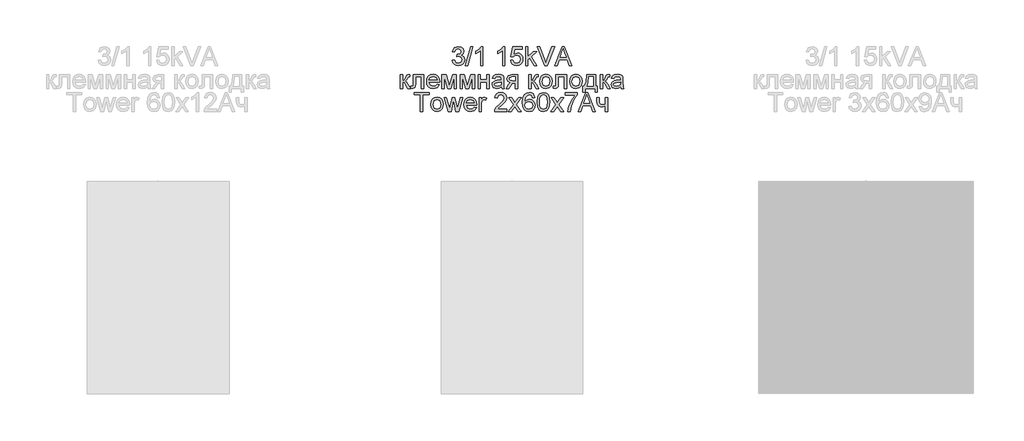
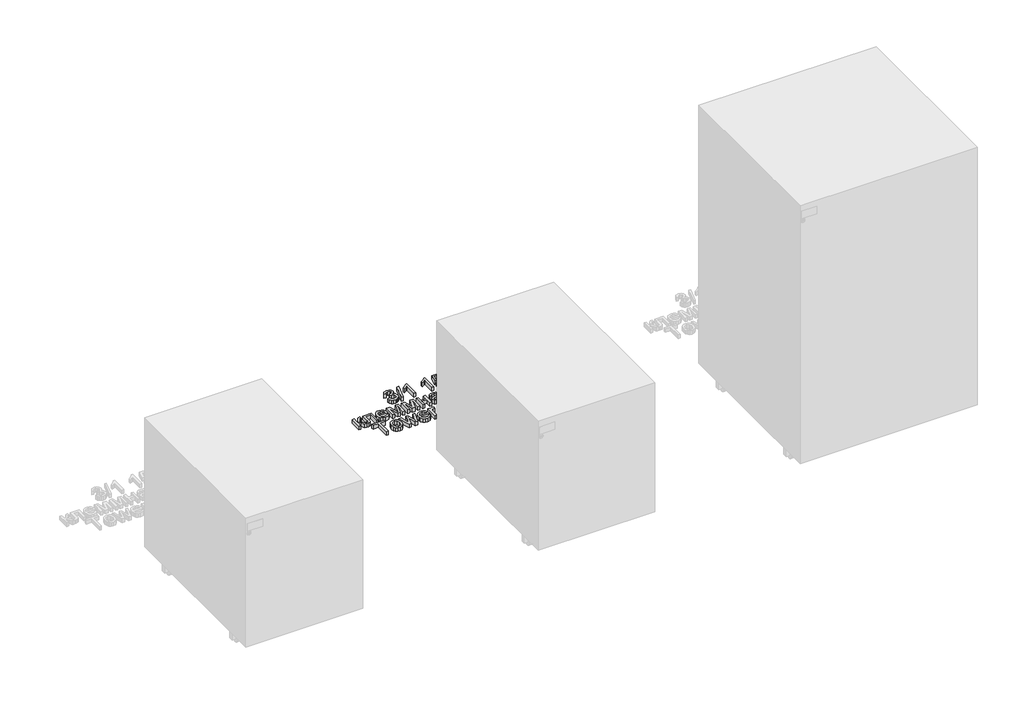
# One storey, part 45 of 74: 1 proxy.
"""IFC4 building model written with IfcOpenShell, lengths in millimetres."""

from ifc_helpers import new_model, si_unit, origin, origin_with_axes, place, context, project, spatial, polyline, outline, extrude, element, save

model = new_model("IFC4")

# Units and contexts
model_context = context("Model", 3, world=origin())
ifc_project = project(units=[si_unit("LENGTHUNIT", "METRE", prefix="MILLI")], contexts=[model_context])

# Site, building, storey
site = spatial("IfcSite", under=ifc_project)
building = spatial("IfcBuilding", under=site)
storey = spatial("IfcBuildingStorey", under=building, Name="Этаж 01", Elevation=0.0)

# Proxy
placement = place(None, origin())
element("IfcBuildingElementProxy", 1, Name="80 мм Arial", ObjectType="80 мм Arial", at=placement, inside=storey, context=model_context, shape_type="SweptSolid", body=[
    extrude(outline(polyline([(10098.3137414, -15105.2863601), (10108.3593724, -15104.0306562), (10113.9021278, -15114.6060373), (10124.2714949, -15117.8433988), (10136.475367, -15113.3895741), (10141.0076732, -15102.3629245), (10136.5146077, -15091.9739369), (10125.0955506, -15087.8634688), (10118.0518367, -15088.9622097), (10119.1701979, -15078.9165786), (10120.7790685, -15079.0343009), (10132.1785053, -15076.150106), (10137.2405615, -15067.2816974), (10133.5715518, -15059.423738), (10124.114532, -15056.3139089), (10114.5397899, -15059.4531685), (10109.6150762, -15068.8709476), (10099.5694452, -15067.6152437), (10107.7903816, -15051.8600842), (10123.7613652, -15046.2682778), (10135.8769456, -15049.0249403), (10144.3529468, -15056.5591635), (10147.2861926, -15066.6930862), (10144.5000996, -15075.9539023), (10136.2595429, -15082.6052088), (10147.2077111, -15089.4723394), (10151.0533042, -15102.5395078), (10149.1305076, -15112.330074), (10143.3621179, -15120.5117696), (10134.6555774, -15126.0447148), (10123.9183282, -15127.8890298), (10114.2062435, -15126.3144949), (10106.2992332, -15121.5908901), (10100.8006236, -15114.3656877), (10098.3137414, -15105.2863601)])), origin_with_axes(), (0.0, 0.0, 1.0), 20.0),
    extrude(outline(polyline([(10154.8204158, -15126.633326), (10177.4230856, -15046.2682778), (10186.487698, -15046.2682778), (10163.8850282, -15126.633326), (10154.8204158, -15126.633326)])), origin_with_axes(), (0.0, 0.0, 1.0), 20.0),
    extrude(outline(polyline([(10228.9069446, -15126.633326), (10218.8613135, -15126.633326), (10218.8613135, -15064.0050951), (10209.3454326, -15070.783934), (10198.7700515, -15075.8558004), (10198.7700515, -15066.3595399), (10213.4951415, -15056.9613812), (10222.4322214, -15046.2682778), (10228.9069446, -15046.2682778), (10228.9069446, -15126.633326)])), origin_with_axes(), (0.0, 0.0, 1.0), 20.0),
    extrude(outline(polyline([(10321.8290314, -15126.633326), (10311.7834004, -15126.633326), (10311.7834004, -15064.0050951), (10302.2675195, -15070.783934), (10291.6921384, -15075.8558004), (10291.6921384, -15066.3595399), (10306.4172284, -15056.9613812), (10315.3543083, -15046.2682778), (10321.8290314, -15046.2682778), (10321.8290314, -15126.633326)])), origin_with_axes(), (0.0, 0.0, 1.0), 20.0),
    extrude(outline(polyline([(10345.6874051, -15105.2863601), (10355.7330361, -15104.0306562), (10360.7950924, -15114.380403), (10371.291992, -15117.8433988), (10383.8882715, -15113.0265972), (10388.3813369, -15100.2439242), (10384.1727669, -15088.3147373), (10371.4489549, -15083.9393941), (10362.6295973, -15085.6856074), (10356.98874, -15090.2179135), (10346.943109, -15088.9622097), (10355.7330361, -15047.5239817), (10394.6598563, -15047.5239817), (10394.6598563, -15057.5696127), (10363.8558706, -15057.5696127), (10359.5590089, -15079.7013936), (10374.2546683, -15073.8937631), (10383.6405643, -15075.6939324), (10391.4323049, -15081.0944401), (10396.6783022, -15089.3251866), (10398.4269679, -15099.6160722), (10396.852433, -15109.6617032), (10392.1288282, -15118.2554267), (10383.0838362, -15125.480629), (10371.2527512, -15127.8890298), (10361.3861561, -15126.3414729), (10353.5257441, -15121.6988021), (10348.1374992, -15114.5005778), (10345.6874051, -15105.2863601)])), origin_with_axes(), (0.0, 0.0, 1.0), 20.0),
    extrude(outline(polyline([(10409.7283028, -15126.633326), (10409.7283028, -15046.2682778), (10419.7739338, -15046.2682778), (10419.7739338, -15089.452719), (10442.2981221, -15067.6152437), (10456.1893463, -15067.6152437), (10433.3904728, -15089.7274042), (10457.4450501, -15126.633326), (10445.712067, -15126.633326), (10426.1897958, -15096.712257), (10419.7739338, -15102.9319153), (10419.7739338, -15126.633326), (10409.7283028, -15126.633326)])), origin_with_axes(), (0.0, 0.0, 1.0), 20.0),
    extrude(outline(polyline([(10491.2313326, -15126.633326), (10459.2501245, -15046.2682778), (10470.0020889, -15046.2682778), (10491.4079159, -15104.1679988), (10495.7440184, -15117.2155469), (10500.0212597, -15104.1679988), (10521.4859479, -15046.2682778), (10532.2379123, -15046.2682778), (10501.6105099, -15126.633326), (10491.2313326, -15126.633326)])), origin_with_axes(), (0.0, 0.0, 1.0), 20.0),
    extrude(outline(polyline([(10532.2182919, -15126.633326), (10564.2976019, -15046.2682778), (10572.8520846, -15046.2682778), (10604.9313946, -15126.633326), (10594.3167727, -15126.633326), (10585.1148177, -15101.5192484), (10552.0152484, -15101.5192484), (10542.8329138, -15126.633326), (10532.2182919, -15126.633326)]), holes=[polyline([(10555.7038785, -15091.4736174), (10581.445808, -15091.4736174), (10574.2058903, -15071.7159017), (10568.5748432, -15056.3139089), (10563.5716481, -15069.9893089), (10555.7038785, -15091.4736174)])]), origin_with_axes(), (0.0, 0.0, 1.0), 20.0),
    extrude(outline(polyline([(9933.1886815, -15165.195098), (9978.3940211, -15165.195098), (9978.3940211, -15224.1543191), (9968.3483901, -15224.1543191), (9968.3483901, -15175.240729), (9943.2343126, -15175.240729), (9943.2343126, -15203.3959644), (9942.5574097, -15216.3846514), (9938.839349, -15221.8685457), (9930.0494219, -15224.2131802), (9921.8873467, -15223.7030505), (9921.8873467, -15214.1675492), (9926.3804121, -15214.1675492), (9930.9225285, -15213.5495075), (9932.737413, -15211.5874702), (9933.1886815, -15202.8269736), (9933.1886815, -15165.195098)])), origin_with_axes(), (0.0, 0.0, 1.0), 20.0),
    extrude(outline(polyline([(9879.1934148, -15165.195098), (9889.2390459, -15165.195098), (9889.2390459, -15190.3091756), (9895.9688338, -15188.5041012), (9901.4821587, -15177.9875813), (9906.0635158, -15168.9131587), (9910.1053126, -15165.9602926), (9917.4531423, -15165.195098), (9919.3759389, -15165.195098), (9919.3759389, -15175.2995902), (9916.6683274, -15175.240729), (9911.7632341, -15176.3002292), (9908.3100485, -15182.9122949), (9904.2584414, -15190.0639209), (9898.5783434, -15193.5661575), (9904.9157239, -15197.4755168), (9911.1353822, -15205.7111684), (9921.8873467, -15224.2131802), (9910.4682895, -15224.2131802), (9899.9321492, -15206.1035759), (9894.6346485, -15198.4418202), (9889.2390459, -15196.5876949), (9889.2390459, -15224.2131802), (9879.1934148, -15224.2131802), (9879.1934148, -15165.195098)])), origin_with_axes(), (0.0, 0.0, 1.0), 20.0),
    extrude(outline(polyline([(10034.7829733, -15206.633326), (10044.6324006, -15207.8890298), (10035.4206355, -15220.8580964), (10018.2626192, -15225.4688841), (10006.4756801, -15223.4798688), (9997.4061626, -15217.5128228), (9991.6230577, -15207.9552486), (9989.695356, -15195.1946485), (9991.642678, -15182.0048527), (9997.4846441, -15172.1407101), (10006.4315342, -15165.9897231), (10017.6936284, -15163.9393941), (10028.6050084, -15165.984818), (10037.3238116, -15172.1210897), (10043.0406979, -15181.9656119), (10044.9463266, -15195.1357873), (10044.8874655, -15197.8433988), (9999.740987, -15197.8433988), (10005.5191869, -15210.8909469), (10018.4588229, -15215.4232531), (10028.3082502, -15213.3238732), (10034.7829733, -15206.633326)]), holes=[polyline([(9999.740987, -15187.7977678), (10034.9006956, -15187.7977678), (10030.8785191, -15178.6939147), (10017.6543876, -15173.9850252), (10005.2837424, -15177.7423266), (9999.740987, -15187.7977678)])]), origin_with_axes(), (0.0, 0.0, 1.0), 20.0),
    extrude(outline(polyline([(10054.9919576, -15165.195098), (10072.2775063, -15165.195098), (10085.5997396, -15212.4409564), (10099.9618527, -15165.195098), (10116.5214476, -15165.195098), (10116.5214476, -15224.2131802), (10106.4758166, -15224.2131802), (10106.4758166, -15176.6926366), (10092.035222, -15224.2131802), (10078.8503313, -15224.2131802), (10065.0375886, -15174.4166734), (10065.0375886, -15224.2131802), (10054.9919576, -15224.2131802), (10054.9919576, -15165.195098)])), origin_with_axes(), (0.0, 0.0, 1.0), 20.0),
    extrude(outline(polyline([(10131.5898941, -15165.195098), (10148.8754428, -15165.195098), (10162.1976761, -15212.4409564), (10176.5597892, -15165.195098), (10193.1193841, -15165.195098), (10193.1193841, -15224.2131802), (10183.073753, -15224.2131802), (10183.073753, -15176.6926366), (10168.6331585, -15224.2131802), (10155.4482678, -15224.2131802), (10141.6355251, -15174.4166734), (10141.6355251, -15224.2131802), (10131.5898941, -15224.2131802), (10131.5898941, -15165.195098)])), origin_with_axes(), (0.0, 0.0, 1.0), 20.0),
    extrude(outline(polyline([(10208.1878306, -15165.195098), (10218.2334616, -15165.195098), (10218.2334616, -15187.7977678), (10244.603243, -15187.7977678), (10244.603243, -15165.195098), (10254.648874, -15165.195098), (10254.648874, -15224.2131802), (10244.603243, -15224.2131802), (10244.603243, -15197.8433988), (10218.2334616, -15197.8433988), (10218.2334616, -15224.2131802), (10208.1878306, -15224.2131802), (10208.1878306, -15165.195098)])), origin_with_axes(), (0.0, 0.0, 1.0), 20.0),
    extrude(outline(polyline([(10307.3884369, -15216.678957), (10297.6469216, -15223.4872264), (10286.885147, -15225.4688841), (10272.2973996, -15220.7011335), (10267.2059128, -15208.5168818), (10269.1287094, -15200.5706307), (10274.1809554, -15194.802241), (10281.2148592, -15191.5060183), (10289.9066844, -15189.9952496), (10307.3295757, -15186.5420639), (10307.3884369, -15184.3053414), (10304.6219643, -15176.8888404), (10293.5168331, -15173.9850252), (10283.3534798, -15175.9176319), (10278.5072477, -15182.7749523), (10268.4616167, -15181.5192484), (10272.8075293, -15171.7090619), (10281.5582157, -15165.9602926), (10294.8117777, -15163.9393941), (10306.9862192, -15165.7248481), (10313.86316, -15170.2081033), (10316.9435585, -15177.026183), (10317.4340679, -15185.8161101), (10317.4340679, -15198.3142878), (10317.9441976, -15215.7666096), (10319.9454756, -15224.2131802), (10309.8998446, -15224.2131802), (10307.3884369, -15216.678957)]), holes=[polyline([(10307.3884369, -15196.5876949), (10291.1820087, -15199.6680935), (10282.5392344, -15201.2965845), (10278.6249699, -15203.9453348), (10277.2515438, -15207.8105483), (10280.2436507, -15213.2453917), (10289.0237677, -15215.4232531), (10299.1871209, -15213.0197574), (10305.7403255, -15207.2023168), (10307.3295757, -15199.432649), (10307.3884369, -15196.5876949)])]), origin_with_axes(), (0.0, 0.0, 1.0), 20.0),
    extrude(outline(polyline([(10376.4521501, -15165.195098), (10376.4521501, -15224.2131802), (10366.4065191, -15224.2131802), (10366.4065191, -15201.6105105), (10360.932435, -15201.6105105), (10353.4766932, -15202.8858347), (10346.47222, -15211.4599377), (10338.4671078, -15224.2131802), (10326.8518469, -15224.2131802), (10336.9367187, -15208.0852336), (10345.4912014, -15199.7269546), (10333.797459, -15193.6250186), (10329.9911066, -15182.2452022), (10335.1905055, -15169.9236079), (10350.2393317, -15165.195098), (10376.4521501, -15165.195098)]), holes=[polyline([(10366.4065191, -15175.240729), (10353.1627672, -15175.240729), (10342.4402334, -15177.5657432), (10340.0367377, -15183.0103968), (10343.578215, -15189.4949301), (10356.1254436, -15191.5648794), (10366.4065191, -15191.5648794), (10366.4065191, -15175.240729)])]), origin_with_axes(), (0.0, 0.0, 1.0), 20.0),
    extrude(outline(polyline([(10422.9131935, -15165.195098), (10432.9588245, -15165.195098), (10432.9588245, -15190.3091756), (10439.6886125, -15188.5041012), (10445.2019373, -15177.9875813), (10449.7832945, -15168.9131587), (10453.8250913, -15165.9602926), (10461.172921, -15165.195098), (10463.0957176, -15165.195098), (10463.0957176, -15175.2995902), (10460.3881061, -15175.240729), (10455.4830128, -15176.3002292), (10452.0298272, -15182.9122949), (10447.9782201, -15190.0639209), (10442.2981221, -15193.5661575), (10448.6355026, -15197.4755168), (10454.8551609, -15205.7111684), (10465.6071253, -15224.2131802), (10454.1880682, -15224.2131802), (10443.6519279, -15206.1035759), (10438.3544271, -15198.4418202), (10432.9588245, -15196.5876949), (10432.9588245, -15224.2131802), (10422.9131935, -15224.2131802), (10422.9131935, -15165.195098)])), origin_with_axes(), (0.0, 0.0, 1.0), 20.0),
    extrude(outline(polyline([(10469.374237, -15194.7041391), (10471.5471933, -15180.4744636), (10478.0660622, -15170.4729784), (10486.1202254, -15165.5727902), (10495.7636388, -15163.9393941), (10506.3169469, -15165.9284095), (10514.7463497, -15171.8954554), (10520.2719373, -15181.3696431), (10522.1137998, -15193.8800835), (10518.8568179, -15211.7542433), (10509.3703675, -15221.8685457), (10495.7636388, -15225.4688841), (10485.0827982, -15223.4872264), (10476.6632056, -15217.5422534), (10471.1964791, -15207.8694095), (10469.374237, -15194.7041391)]), holes=[polyline([(10479.419868, -15194.6845188), (10484.0698964, -15210.2532848), (10495.7636388, -15215.4232531), (10507.4181404, -15210.2238542), (10512.0681688, -15194.3705928), (10507.3887098, -15179.1549935), (10495.7636388, -15173.9850252), (10484.0698964, -15179.1353731), (10479.419868, -15194.6845188)])]), origin_with_axes(), (0.0, 0.0, 1.0), 20.0),
    extrude(outline(polyline([(10538.4379502, -15165.195098), (10583.6432898, -15165.195098), (10583.6432898, -15224.1543191), (10573.5976588, -15224.1543191), (10573.5976588, -15175.240729), (10548.4835812, -15175.240729), (10548.4835812, -15203.3959644), (10547.8066783, -15216.3846514), (10544.0886176, -15221.8685457), (10535.2986905, -15224.2131802), (10527.1366153, -15223.7030505), (10527.1366153, -15214.1675492), (10531.6296807, -15214.1675492), (10536.1717971, -15213.5495075), (10537.9866816, -15211.5874702), (10538.4379502, -15202.8269736), (10538.4379502, -15165.195098)])), origin_with_axes(), (0.0, 0.0, 1.0), 20.0),
    extrude(outline(polyline([(10596.2003285, -15194.7041391), (10598.3732849, -15180.4744636), (10604.8921538, -15170.4729784), (10612.946317, -15165.5727902), (10622.5897303, -15163.9393941), (10633.1430385, -15165.9284095), (10641.5724413, -15171.8954554), (10647.0980288, -15181.3696431), (10648.9398914, -15193.8800835), (10645.6829094, -15211.7542433), (10636.1964591, -15221.8685457), (10622.5897303, -15225.4688841), (10611.9088897, -15223.4872264), (10603.4892971, -15217.5422534), (10598.0225707, -15207.8694095), (10596.2003285, -15194.7041391)]), holes=[polyline([(10606.2459596, -15194.6845188), (10610.895988, -15210.2532848), (10622.5897303, -15215.4232531), (10634.2442319, -15210.2238542), (10638.8942603, -15194.3705928), (10634.2148014, -15179.1549935), (10622.5897303, -15173.9850252), (10610.895988, -15179.1353731), (10606.2459596, -15194.6845188)])]), origin_with_axes(), (0.0, 0.0, 1.0), 20.0),
    extrude(outline(polyline([(10669.0311534, -15165.195098), (10706.7022697, -15165.195098), (10706.7022697, -15214.1675492), (10714.236493, -15214.1675492), (10714.236493, -15240.5373306), (10704.1908619, -15240.5373306), (10704.1908619, -15224.2131802), (10662.752634, -15224.2131802), (10662.752634, -15240.5373306), (10652.707003, -15240.5373306), (10652.707003, -15214.1675492), (10658.9855224, -15214.1675492), (10666.7453799, -15195.0082549), (10669.0311534, -15165.195098)]), holes=[polyline([(10677.8210805, -15175.240729), (10675.4666358, -15198.1278942), (10670.2868573, -15214.1675492), (10696.6566387, -15214.1675492), (10696.6566387, -15175.240729), (10677.8210805, -15175.240729)])]), origin_with_axes(), (0.0, 0.0, 1.0), 20.0),
    extrude(outline(polyline([(10725.5378279, -15165.195098), (10735.5834589, -15165.195098), (10735.5834589, -15190.3091756), (10742.3132468, -15188.5041012), (10747.8265717, -15177.9875813), (10752.4079288, -15168.9131587), (10756.4497256, -15165.9602926), (10763.7975554, -15165.195098), (10765.7203519, -15165.195098), (10765.7203519, -15175.2995902), (10763.0127404, -15175.240729), (10758.1076472, -15176.3002292), (10754.6544615, -15182.9122949), (10750.6028545, -15190.0639209), (10744.9227565, -15193.5661575), (10751.260137, -15197.4755168), (10757.4797952, -15205.7111684), (10768.2317597, -15224.2131802), (10756.8127025, -15224.2131802), (10746.2765622, -15206.1035759), (10740.9790615, -15198.4418202), (10735.5834589, -15196.5876949), (10735.5834589, -15224.2131802), (10725.5378279, -15224.2131802), (10725.5378279, -15165.195098)])), origin_with_axes(), (0.0, 0.0, 1.0), 20.0),
    extrude(outline(polyline([(10812.1813954, -15216.678957), (10802.4398801, -15223.4872264), (10791.6781055, -15225.4688841), (10777.0903581, -15220.7011335), (10771.9988713, -15208.5168818), (10773.9216679, -15200.5706307), (10778.9739139, -15194.802241), (10786.0078177, -15191.5060183), (10794.6996429, -15189.9952496), (10812.1225342, -15186.5420639), (10812.1813954, -15184.3053414), (10809.4149228, -15176.8888404), (10798.3097916, -15173.9850252), (10788.1464383, -15175.9176319), (10783.3002062, -15182.7749523), (10773.2545752, -15181.5192484), (10777.6004878, -15171.7090619), (10786.3511742, -15165.9602926), (10799.6047362, -15163.9393941), (10811.7791777, -15165.7248481), (10818.6561185, -15170.2081033), (10821.736517, -15177.026183), (10822.2270264, -15185.8161101), (10822.2270264, -15198.3142878), (10822.7371561, -15215.7666096), (10824.7384341, -15224.2131802), (10814.6928031, -15224.2131802), (10812.1813954, -15216.678957)]), holes=[polyline([(10812.1813954, -15196.5876949), (10795.9749672, -15199.6680935), (10787.3321929, -15201.2965845), (10783.4179284, -15203.9453348), (10782.0445023, -15207.8105483), (10785.0366092, -15213.2453917), (10793.8167262, -15215.4232531), (10803.9800794, -15213.0197574), (10810.533284, -15207.2023168), (10812.1225342, -15199.432649), (10812.1813954, -15196.5876949)])]), origin_with_axes(), (0.0, 0.0, 1.0), 20.0),
    extrude(outline(polyline([(9963.9534265, -15321.7930345), (9963.9534265, -15251.4736174), (9937.5836451, -15251.4736174), (9937.5836451, -15241.4279864), (10000.368839, -15241.4279864), (10000.368839, -15251.4736174), (9973.9990575, -15251.4736174), (9973.9990575, -15321.7930345), (9963.9534265, -15321.7930345)])), origin_with_axes(), (0.0, 0.0, 1.0), 20.0),
    extrude(outline(polyline([(10007.9030622, -15292.2839934), (10010.0760185, -15278.0543178), (10016.5948875, -15268.0528327), (10024.6490506, -15263.1526445), (10034.292464, -15261.5192484), (10044.8457722, -15263.5082637), (10053.275175, -15269.4753097), (10058.8007625, -15278.9494974), (10060.6426251, -15291.4599377), (10057.3856431, -15309.3340976), (10047.8991927, -15319.4483999), (10034.292464, -15323.0487384), (10023.6116234, -15321.0670807), (10015.1920308, -15315.1221077), (10009.7253044, -15305.4492637), (10007.9030622, -15292.2839934)]), holes=[polyline([(10017.9486932, -15292.264373), (10022.5987217, -15307.8331391), (10034.292464, -15313.0031074), (10045.9469656, -15307.8037085), (10050.596994, -15291.9504471), (10045.9175351, -15276.7348477), (10034.292464, -15271.5648794), (10022.5987217, -15276.7152274), (10017.9486932, -15292.264373)])]), origin_with_axes(), (0.0, 0.0, 1.0), 20.0),
    extrude(outline(polyline([(10081.7345261, -15321.7930345), (10063.7818847, -15262.7749523), (10074.2199232, -15262.7749523), (10084.4028968, -15297.208707), (10087.4440547, -15309.510681), (10089.9358421, -15297.6599756), (10098.0390561, -15262.7749523), (10110.0074837, -15262.7749523), (10118.071457, -15297.5618738), (10120.2885592, -15308.2942178), (10123.4670596, -15296.9732626), (10133.6696536, -15262.7749523), (10144.1469329, -15262.7749523), (10126.0569489, -15321.7930345), (10113.911938, -15321.7930345), (10106.2011313, -15287.1826964), (10103.9644088, -15276.3914912), (10094.0168797, -15321.7930345), (10081.7345261, -15321.7930345)])), origin_with_axes(), (0.0, 0.0, 1.0), 20.0),
    extrude(outline(polyline([(10192.3738099, -15304.2131802), (10202.2232372, -15305.4688841), (10193.011472, -15318.4379507), (10175.8534558, -15323.0487384), (10164.0665166, -15321.0597231), (10154.9969992, -15315.0926771), (10149.2138942, -15305.5351029), (10147.2861926, -15292.7745027), (10149.2335146, -15279.5847069), (10155.0754807, -15269.7205644), (10164.0223708, -15263.5695774), (10175.2844649, -15261.5192484), (10186.1958449, -15263.5646723), (10194.9146482, -15269.700944), (10200.6315344, -15279.5454662), (10202.5371631, -15292.7156416), (10202.478302, -15295.4232531), (10157.3318236, -15295.4232531), (10163.1100234, -15308.4708012), (10176.0496595, -15313.0031074), (10185.8990868, -15310.9037275), (10192.3738099, -15304.2131802)]), holes=[polyline([(10157.3318236, -15285.3776221), (10192.4915321, -15285.3776221), (10188.4693556, -15276.273769), (10175.2452242, -15271.5648794), (10162.874579, -15275.3221809), (10157.3318236, -15285.3776221)])]), origin_with_axes(), (0.0, 0.0, 1.0), 20.0),
    extrude(outline(polyline([(10212.5827942, -15321.7930345), (10212.5827942, -15262.7749523), (10221.3727213, -15262.7749523), (10221.3727213, -15271.5060183), (10227.6119999, -15263.4616654), (10233.8905193, -15261.5192484), (10243.9753911, -15264.6192674), (10240.6203073, -15273.6250186), (10233.556973, -15271.5648794), (10227.876875, -15273.5465371), (10224.2569161, -15279.0402416), (10222.6284252, -15290.7732247), (10222.6284252, -15321.7930345), (10212.5827942, -15321.7930345)])), origin_with_axes(), (0.0, 0.0, 1.0), 20.0),
    extrude(outline(polyline([(10330.6189586, -15311.7474035), (10330.6189586, -15321.7930345), (10277.8793957, -15321.7930345), (10278.9585163, -15314.8670428), (10285.0604523, -15304.2033701), (10297.6371114, -15292.5586786), (10314.9815212, -15275.8225004), (10319.3176237, -15264.442684), (10315.2267759, -15255.2309189), (10304.5434828, -15251.4736174), (10293.408921, -15255.1426272), (10289.1807306, -15265.2863601), (10279.1350996, -15264.0306562), (10281.5704784, -15254.3136664), (10286.8360961, -15247.2159965), (10294.6572673, -15242.8749889), (10304.7593069, -15241.4279864), (10314.9349228, -15243.036857), (10322.7413788, -15247.8634688), (10327.7077857, -15255.0739559), (10329.3632547, -15263.8344524), (10327.5778008, -15273.3601436), (10321.6426379, -15283.2095709), (10307.2510942, -15296.9732626), (10295.6946945, -15306.6362963), (10291.1623883, -15311.7474035), (10330.6189586, -15311.7474035)])), origin_with_axes(), (0.0, 0.0, 1.0), 20.0),
    extrude(outline(polyline([(10336.897478, -15321.7930345), (10358.3621661, -15292.1270304), (10338.1531818, -15262.7749523), (10350.2393317, -15262.7749523), (10359.9906571, -15276.9016209), (10364.5425836, -15283.5725478), (10368.4862786, -15278.118084), (10379.5914098, -15262.7749523), (10391.6775596, -15262.7749523), (10370.4483159, -15292.1270304), (10390.8927447, -15321.7930345), (10378.8065949, -15321.7930345), (10366.5046209, -15303.9581154), (10364.248278, -15300.7011335), (10348.9836278, -15321.7930345), (10336.897478, -15321.7930345)])), origin_with_axes(), (0.0, 0.0, 1.0), 20.0),
    extrude(outline(polyline([(10448.655123, -15262.7749523), (10438.609492, -15264.0306562), (10434.8031396, -15255.6527569), (10424.7378882, -15251.4736174), (10415.6732759, -15253.9065437), (10408.8159555, -15263.0398273), (10405.9611912, -15280.9434178), (10414.8197896, -15272.9284954), (10425.7973884, -15270.3091756), (10435.0778248, -15272.0995346), (10442.8671129, -15277.4706117), (10448.1498984, -15285.6768328), (10449.9108269, -15295.9726235), (10446.5949838, -15309.8344171), (10437.4715103, -15319.6446037), (10424.30624, -15323.0487384), (10412.9092558, -15320.7923955), (10403.8323807, -15314.0233668), (10397.8947653, -15302.0745596), (10395.9155602, -15284.2788812), (10398.113042, -15264.2710057), (10404.7054873, -15250.5907006), (10413.7063335, -15243.7186649), (10425.3657402, -15241.4279864), (10434.1801928, -15242.8455583), (10441.238622, -15247.0982742), (10448.655123, -15262.7749523)]), holes=[polyline([(10405.9611912, -15295.8156606), (10408.2862054, -15304.517296), (10414.4666229, -15310.8350561), (10423.5214251, -15313.0031074), (10435.3623202, -15308.5100419), (10439.8651959, -15296.3061699), (10435.4211814, -15284.6222377), (10423.1093973, -15280.3548066), (10410.9545761, -15284.6222377), (10405.9611912, -15295.8156606)])]), origin_with_axes(), (0.0, 0.0, 1.0), 20.0),
    extrude(outline(polyline([(10458.700754, -15282.2579828), (10461.6536202, -15259.1353731), (10470.4239269, -15245.8033296), (10485.0705354, -15241.4279864), (10496.8035185, -15244.0178756), (10504.9067326, -15251.4834276), (10509.6156222, -15263.3733737), (10511.4403168, -15282.2579828), (10508.5168813, -15305.2824906), (10499.7760051, -15318.6439646), (10485.0705354, -15323.0487384), (10474.632497, -15321.135752), (10466.7058662, -15315.3967929), (10460.7020321, -15301.8047794), (10458.700754, -15282.2579828)]), holes=[polyline([(10468.746385, -15282.2383624), (10469.9236074, -15298.0401204), (10473.4552746, -15307.1856668), (10485.0705354, -15313.0031074), (10496.6857963, -15307.1660464), (10500.2174634, -15298.0155949), (10501.3946858, -15282.2383624), (10500.2567042, -15266.7922237), (10496.8427593, -15257.5755534), (10491.5943095, -15252.9991014), (10484.9528132, -15251.4736174), (10473.6122376, -15256.8495996), (10469.9628482, -15266.6401658), (10468.746385, -15282.2383624)])]), origin_with_axes(), (0.0, 0.0, 1.0), 20.0),
    extrude(outline(polyline([(10516.4631324, -15321.7930345), (10537.9278205, -15292.1270304), (10517.7188362, -15262.7749523), (10529.804986, -15262.7749523), (10539.5563115, -15276.9016209), (10544.108238, -15283.5725478), (10548.051933, -15278.118084), (10559.1570642, -15262.7749523), (10571.243214, -15262.7749523), (10550.0139703, -15292.1270304), (10570.4583991, -15321.7930345), (10558.3722492, -15321.7930345), (10546.0702753, -15303.9581154), (10543.8139324, -15300.7011335), (10528.5492822, -15321.7930345), (10516.4631324, -15321.7930345)])), origin_with_axes(), (0.0, 0.0, 1.0), 20.0),
    extrude(outline(polyline([(10576.7369184, -15252.7293213), (10576.7369184, -15242.6836903), (10629.4764813, -15242.6836903), (10629.4764813, -15250.8065247), (10614.5159468, -15272.4183657), (10603.0674591, -15299.9555593), (10599.3395882, -15321.7930345), (10589.2939572, -15321.7930345), (10593.2867031, -15299.1315036), (10604.2446815, -15273.5171066), (10619.4308503, -15252.7293213), (10576.7369184, -15252.7293213)])), origin_with_axes(), (0.0, 0.0, 1.0), 20.0),
    extrude(outline(polyline([(10632.6746021, -15321.7930345), (10664.7539121, -15241.4279864), (10673.3083947, -15241.4279864), (10705.3877047, -15321.7930345), (10694.7730829, -15321.7930345), (10685.5711279, -15296.678957), (10652.4715585, -15296.678957), (10643.2892239, -15321.7930345), (10632.6746021, -15321.7930345)]), holes=[polyline([(10656.1601887, -15286.633326), (10681.9021181, -15286.633326), (10674.6622005, -15266.8756103), (10669.0311534, -15251.4736174), (10664.0279583, -15265.1490174), (10656.1601887, -15286.633326)])]), origin_with_axes(), (0.0, 0.0, 1.0), 20.0),
    extrude(outline(polyline([(10711.0972333, -15262.7749523), (10721.1428643, -15262.7749523), (10721.1428643, -15274.0959076), (10721.9571098, -15284.7105294), (10725.8713742, -15290.4592987), (10733.6410419, -15292.9118453), (10747.5126457, -15289.8706875), (10747.5126457, -15262.7749523), (10757.5582767, -15262.7749523), (10757.5582767, -15321.7930345), (10747.5126457, -15321.7930345), (10747.5126457, -15299.5042907), (10730.9530508, -15302.9574764), (10719.5634243, -15299.3571379), (10712.8630668, -15290.5377802), (10711.0972333, -15279.059862), (10711.0972333, -15262.7749523)])), origin_with_axes(), (0.0, 0.0, 1.0), 20.0),
])

save(model, "model.ifc")
